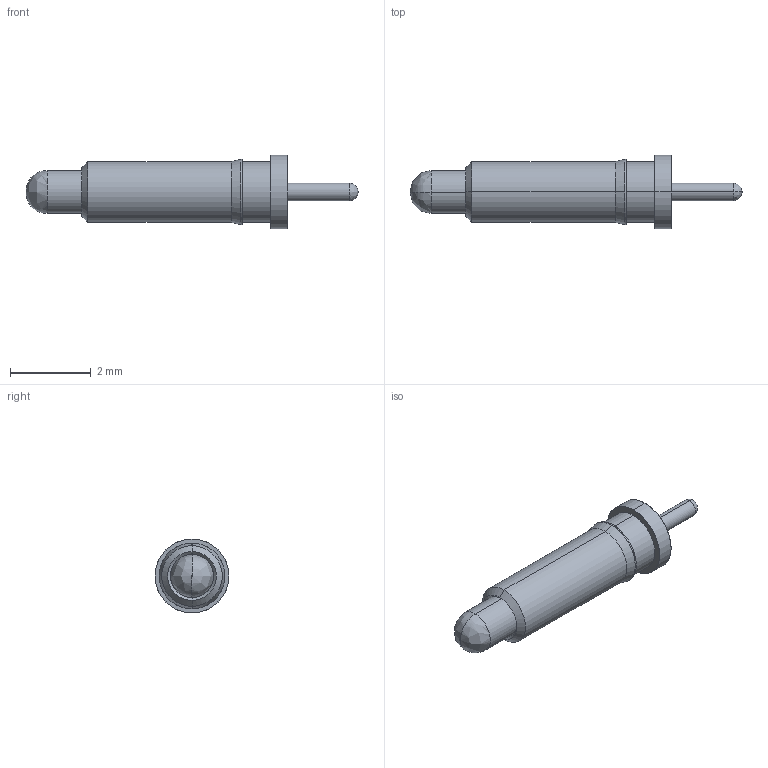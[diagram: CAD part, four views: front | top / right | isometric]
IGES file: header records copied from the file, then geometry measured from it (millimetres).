
Start section: SolidWorks IGES file using analytic representation for surfaces
Global section: file name: O:\OB\102000_1\BIP-14.IGS; native system: SolidWorks 2024; preprocessor: SolidWorks 2024; author: kgolden; date: 251125.121226; units: inch
Bounding box: 8.23 x 1.83 x 1.83 mm (x, y, z)
Surface area: 83.5 mm2 (no closed solid volume)
Topology: 0 solids, 0 shells, 61 faces, 422 edges, 418 vertices
Faces by surface type: revolution 40, bspline 21
